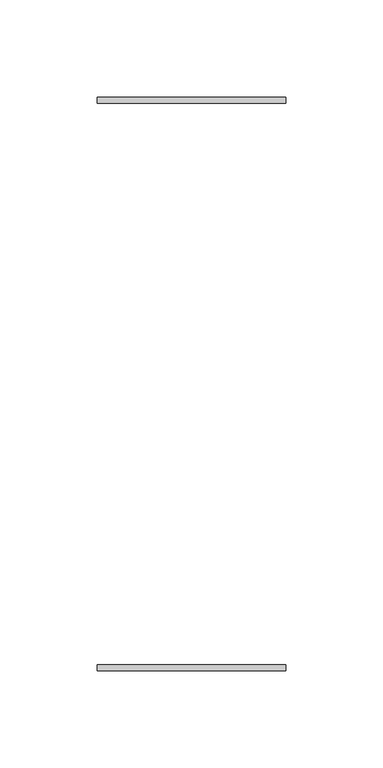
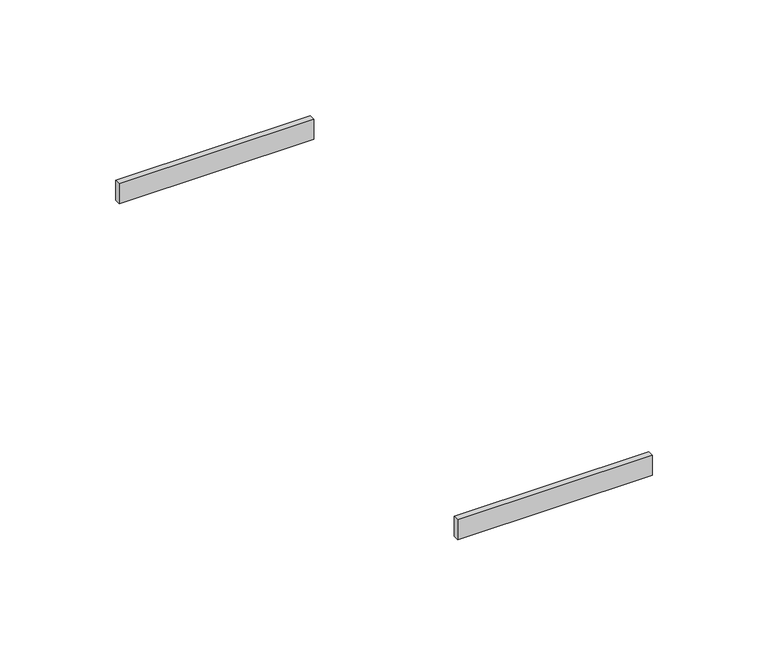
"""IFC4 building model written with IfcOpenShell, lengths in millimetres: cable carrier fitting geometry, Electrical_Installation_Hager_Trunking-Connector : Electrical_Installation_Hager_Trunking-Connector."""

from ifc_helpers import new_model, si_unit, frame, origin, place, context, project, spatial, polyline, outline, extrude, source, transform, mapped, element, save


def cable_carrier_fitting_27d71de1(model_context):
    return source(origin(), model_context, "Body", "SweptSolid", [
        extrude(outline(polyline([(48.4677977, -144.5), (48.4677977, -147.5), (-48.4677977, -147.5), (-48.4677977, -144.5), (48.4677977, -144.5)])), frame((0.0, 0.0, -1.5), z_axis=(0.0, 0.0, 1.0), x_axis=(1.0, 0.0, 0.0)), (0.0, 0.0, 1.0), 10.5),
        extrude(outline(polyline([(48.4677977, 147.5), (48.4677977, 144.5), (-48.4677977, 144.5), (-48.4677977, 147.5), (48.4677977, 147.5)])), frame((0.0, 0.0, -1.5), z_axis=(0.0, 0.0, 1.0), x_axis=(1.0, 0.0, 0.0)), (0.0, 0.0, 1.0), 10.5),
    ])


if __name__ == "__main__":
    model = new_model("IFC4")
    model_context = context("Model", 3, world=origin())
    ifc_project = project(units=[si_unit("LENGTHUNIT", "METRE", prefix="MILLI")], contexts=[model_context])
    site = spatial("IfcSite", under=ifc_project)
    building = spatial("IfcBuilding", under=site)
    placement = place(None, origin())
    cable_carrier_fitting_shape = cable_carrier_fitting_27d71de1(model_context)
    element("IfcCableCarrierFitting", 1, ObjectType="Electrical_Installation_Hager_Trunking-Connector : Electrical_Installation_Hager_Trunking-Connector", at=placement, inside=building, context=model_context, shape_type="MappedRepresentation", body=[
        mapped(cable_carrier_fitting_shape, transform((0.0, 0.0, 0.0), x_axis=(1.0, 0.0, 0.0), y_axis=(0.0, 1.0, 0.0), z_axis=(0.0, 0.0, 1.0))),
    ])
    save(model, "model.ifc")
